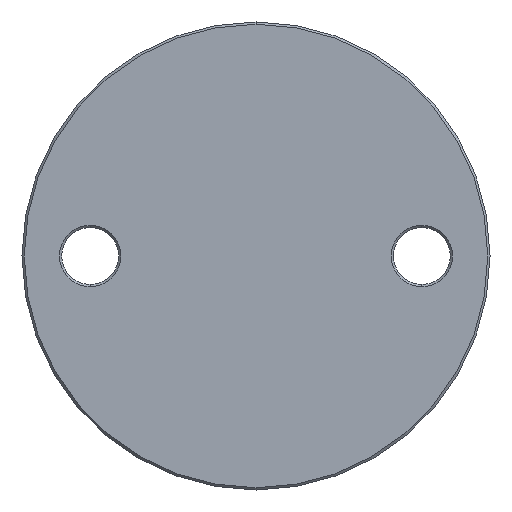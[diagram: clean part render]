
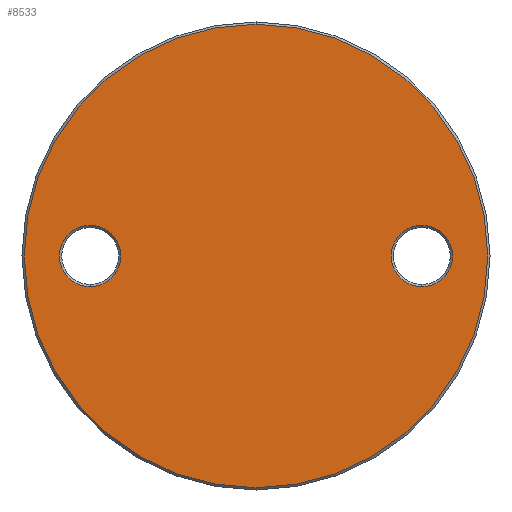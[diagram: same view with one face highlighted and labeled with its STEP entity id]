
A CAD part, front view. The second image highlights one B-rep face of the part: STEP entity #8533.
In plain terms, the highlighted planar face has unit normal (0, -1, 0).
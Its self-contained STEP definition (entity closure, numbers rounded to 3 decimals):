
#104 = DIRECTION ( 'NONE',  ( 0., 0., -1. ) ) ;
#106 = CARTESIAN_POINT ( 'NONE',  ( 36.5, -3., 0. ) ) ;
#173 = AXIS2_PLACEMENT_3D ( 'NONE', #1372, #8898, #9684 ) ;
#371 = CIRCLE ( 'NONE', #4829, 6.75 ) ;
#517 = ORIENTED_EDGE ( 'NONE', *, *, #7529, .T. ) ;
#880 = CIRCLE ( 'NONE', #173, 6.75 ) ;
#1372 = CARTESIAN_POINT ( 'NONE',  ( 36.5, -3., 0. ) ) ;
#1481 = AXIS2_PLACEMENT_3D ( 'NONE', #4170, #3400, #3356 ) ;
#1507 = VERTEX_POINT ( 'NONE', #7233 ) ;
#1900 = EDGE_LOOP ( 'NONE', ( #9847, #5690 ) ) ;
#2011 = DIRECTION ( 'NONE',  ( 0., 0., -1. ) ) ;
#2029 = FACE_OUTER_BOUND ( 'NONE', #1900, .T. ) ;
#2031 = CARTESIAN_POINT ( 'NONE',  ( 36.5, -3., -6.75 ) ) ;
#2082 = DIRECTION ( 'NONE',  ( 0., 0., -1. ) ) ;
#2187 = EDGE_CURVE ( 'NONE', #9212, #9307, #371, .T. ) ;
#2586 = DIRECTION ( 'NONE',  ( 0., 0., -1. ) ) ;
#3057 = DIRECTION ( 'NONE',  ( 0., 0., -1. ) ) ;
#3128 = CARTESIAN_POINT ( 'NONE',  ( 0., -3., 0. ) ) ;
#3356 = DIRECTION ( 'NONE',  ( 0., 0., -1. ) ) ;
#3400 = DIRECTION ( 'NONE',  ( 0., -1., 0. ) ) ;
#3420 = VERTEX_POINT ( 'NONE', #3749 ) ;
#3506 = CARTESIAN_POINT ( 'NONE',  ( 0., -3., -51. ) ) ;
#3749 = CARTESIAN_POINT ( 'NONE',  ( -36.5, -3., 6.75 ) ) ;
#3854 = VERTEX_POINT ( 'NONE', #3506 ) ;
#3976 = EDGE_LOOP ( 'NONE', ( #6681, #4146 ) ) ;
#4146 = ORIENTED_EDGE ( 'NONE', *, *, #6125, .T. ) ;
#4170 = CARTESIAN_POINT ( 'NONE',  ( 0., -3., 51.5 ) ) ;
#4610 = VERTEX_POINT ( 'NONE', #6086 ) ;
#4829 = AXIS2_PLACEMENT_3D ( 'NONE', #106, #6963, #3057 ) ;
#4849 = CARTESIAN_POINT ( 'NONE',  ( -36.5, -3., 0. ) ) ;
#5033 = FACE_BOUND ( 'NONE', #3976, .T. ) ;
#5068 = CARTESIAN_POINT ( 'NONE',  ( 0., -3., 0. ) ) ;
#5233 = CARTESIAN_POINT ( 'NONE',  ( 36.5, -3., 6.75 ) ) ;
#5690 = ORIENTED_EDGE ( 'NONE', *, *, #6962, .T. ) ;
#6086 = CARTESIAN_POINT ( 'NONE',  ( 0., -3., 51. ) ) ;
#6125 = EDGE_CURVE ( 'NONE', #9307, #9212, #880, .T. ) ;
#6519 = CIRCLE ( 'NONE', #7604, 6.75 ) ;
#6562 = EDGE_CURVE ( 'NONE', #3420, #1507, #8089, .T. ) ;
#6620 = ORIENTED_EDGE ( 'NONE', *, *, #6562, .T. ) ;
#6681 = ORIENTED_EDGE ( 'NONE', *, *, #2187, .T. ) ;
#6962 = EDGE_CURVE ( 'NONE', #3854, #4610, #9057, .T. ) ;
#6963 = DIRECTION ( 'NONE',  ( 0., 1., 0. ) ) ;
#7233 = CARTESIAN_POINT ( 'NONE',  ( -36.5, -3., -6.75 ) ) ;
#7297 = DIRECTION ( 'NONE',  ( 0., 1., 0. ) ) ;
#7375 = EDGE_CURVE ( 'NONE', #4610, #3854, #9409, .T. ) ;
#7409 = DIRECTION ( 'NONE',  ( 0., -1., 0. ) ) ;
#7521 = CARTESIAN_POINT ( 'NONE',  ( -36.5, -3., 0. ) ) ;
#7529 = EDGE_CURVE ( 'NONE', #1507, #3420, #6519, .T. ) ;
#7604 = AXIS2_PLACEMENT_3D ( 'NONE', #4849, #7297, #2586 ) ;
#8000 = PLANE ( 'NONE',  #1481 ) ;
#8089 = CIRCLE ( 'NONE', #9386, 6.75 ) ;
#8247 = DIRECTION ( 'NONE',  ( 0., 1., 0. ) ) ;
#8360 = AXIS2_PLACEMENT_3D ( 'NONE', #5068, #7409, #2011 ) ;
#8428 = AXIS2_PLACEMENT_3D ( 'NONE', #3128, #9312, #104 ) ;
#8533 = ADVANCED_FACE ( 'NONE', ( #5033, #9745, #2029 ), #8000, .T. ) ;
#8898 = DIRECTION ( 'NONE',  ( 0., 1., 0. ) ) ;
#9057 = CIRCLE ( 'NONE', #8360, 51. ) ;
#9212 = VERTEX_POINT ( 'NONE', #2031 ) ;
#9307 = VERTEX_POINT ( 'NONE', #5233 ) ;
#9312 = DIRECTION ( 'NONE',  ( 0., -1., 0. ) ) ;
#9334 = EDGE_LOOP ( 'NONE', ( #517, #6620 ) ) ;
#9386 = AXIS2_PLACEMENT_3D ( 'NONE', #7521, #8247, #2082 ) ;
#9409 = CIRCLE ( 'NONE', #8428, 51. ) ;
#9684 = DIRECTION ( 'NONE',  ( 0., 0., -1. ) ) ;
#9745 = FACE_BOUND ( 'NONE', #9334, .T. ) ;
#9847 = ORIENTED_EDGE ( 'NONE', *, *, #7375, .T. ) ;
